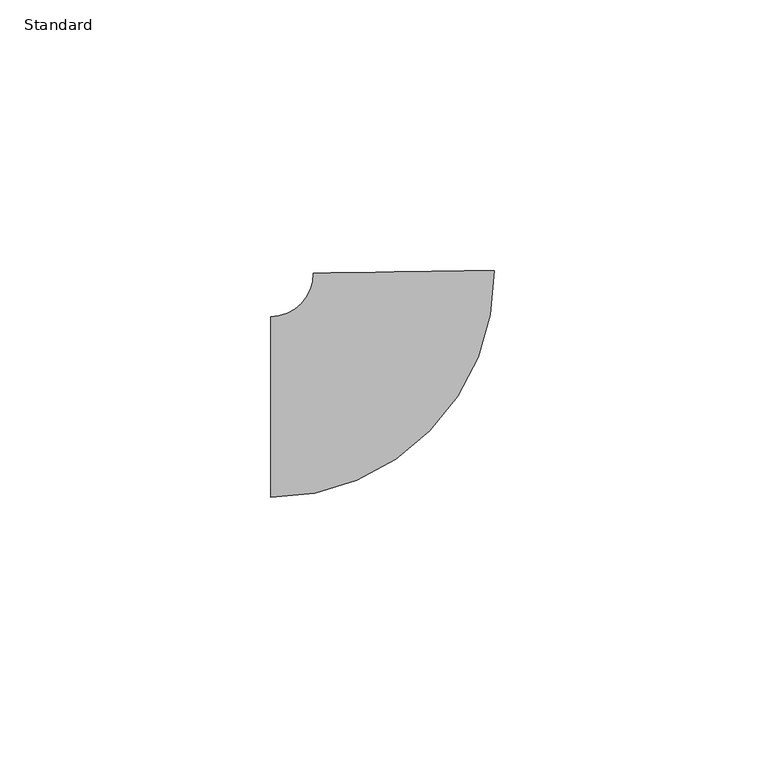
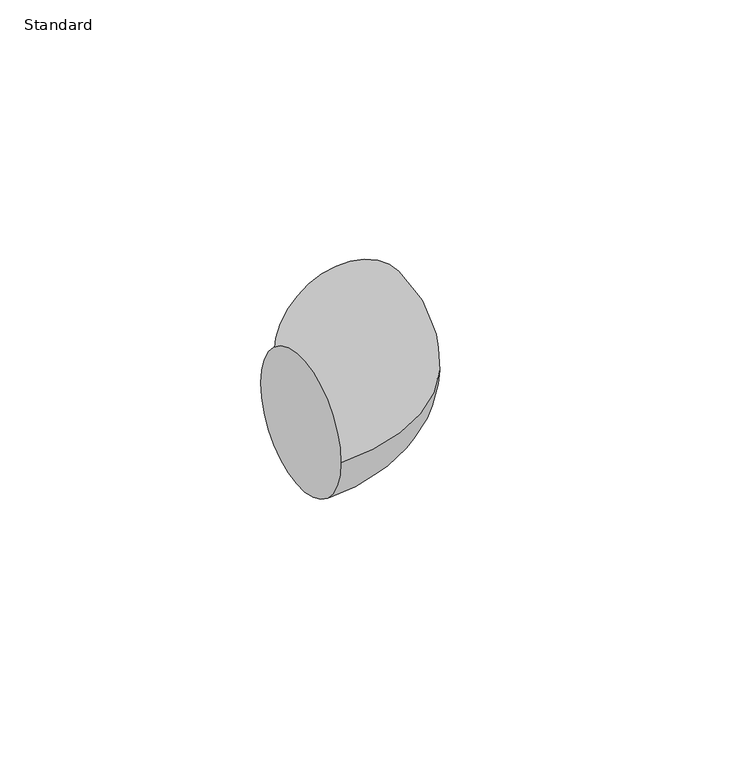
"""IFC4 building model written with IfcOpenShell, lengths in millimetres: pipe fitting geometry, Coude - Générique1 : Standard."""

from ifc_helpers import new_model, si_unit, point, frame, origin, place, context, project, spatial, circle_curve, ellipse_curve, trimmed, source, transform, mapped, element, save
from ifc_brep_helpers import plane_surface, revolved_surface, advanced_brep


def standard_af0e4d0f(model_context):
    return source(origin(), model_context, "Body", "AdvancedBrep", [
        advanced_brep(
        [(-25.0, -16.7, 0.0), (-25.0, 16.7, 0.0), (16.33103, 25.2425724, 0.0), (-17.0653676, 24.7520348, 0.0)],
        [
            (0, 1, circle_curve(frame((-25.0, 0.0, 0.0), z_axis=(-1.0, 0.0, 0.0), x_axis=(0.0, 1.0, 0.0)), 16.7)),
            (1, 0, circle_curve(frame((-25.0, 0.0, 0.0), z_axis=(-1.0, 0.0, 0.0), x_axis=(0.0, 1.0, 0.0)), 16.7)),
            (2, 3, circle_curve(frame((-0.3671688, 24.9973036, 0.0), z_axis=(-0.014686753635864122, 0.9998921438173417, 0.0), x_axis=(-0.9998921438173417, -0.014686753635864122, 0.0)), 16.7)),
            (3, 2, circle_curve(frame((-0.3671688, 24.9973036, 0.0), z_axis=(-0.014686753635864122, 0.9998921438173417, 0.0), x_axis=(-0.9998921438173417, -0.014686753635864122, 0.0)), 16.7)),
            (3, 1, circle_curve(frame((-25.0, 24.6354882, 0.0), z_axis=(0.0, 0.0, -1.0), x_axis=(0.0, -1.0, 0.0)), 7.9354882)),
            (0, 2, circle_curve(frame((-25.0, 24.6354882, 0.0), z_axis=(0.0, 0.0, 1.0), x_axis=(0.0, -1.0, 0.0)), 41.3354882)),
        ],
        [
            plane_surface(frame((-25.0, 0.0, 0.0), z_axis=(-1.0, 0.0, 0.0), x_axis=(0.0, 0.0, 1.0))),
            plane_surface(frame((-0.3671688, 24.9973036, 0.0), z_axis=(-0.014686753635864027, 0.9998921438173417, 0.0), x_axis=(0.0, 0.0, 1.0))),
            revolved_surface(trimmed(ellipse_curve(frame((-25.0, 0.0, 0.0), z_axis=(-1.0, 0.0, 0.0), x_axis=(0.0, 1.0, 0.0)), 16.7, 16.7), [point((-25.0, -16.7, 0.0))], [point((-25.0, 16.7, 0.0))], True, "CARTESIAN"), (-25.0, 24.6354882, 0.0), (0.0, 0.0, 1.0)),
            revolved_surface(trimmed(ellipse_curve(frame((-25.0, 0.0, 0.0), z_axis=(-1.0, 0.0, 0.0), x_axis=(0.0, 1.0, 0.0)), 16.7, 16.7), [point((-25.0, 16.7, 0.0))], [point((-25.0, -16.7, 0.0))], True, "CARTESIAN"), (-25.0, 24.6354882, 0.0), (0.0, 0.0, 1.0)),
        ],
        [
            (0, [[1, 2]]),
            (1, [[3, 4]]),
            (2, [[5, -1, 6, -4]]),
            (3, [[-6, -2, -5, -3]]),
        ],
    ),
    ])


if __name__ == "__main__":
    model = new_model("IFC4")
    model_context = context("Model", 3, world=origin())
    ifc_project = project(units=[si_unit("LENGTHUNIT", "METRE", prefix="MILLI")], contexts=[model_context])
    site = spatial("IfcSite", under=ifc_project)
    building = spatial("IfcBuilding", under=site)
    placement = place(None, origin())
    standard_shape = standard_af0e4d0f(model_context)
    element("IfcPipeFitting", 1, ObjectType="Coude - Générique1 : Standard", at=placement, inside=building, context=model_context, shape_type="MappedRepresentation", body=[
        mapped(standard_shape, transform((0.0, 0.0, 0.0), x_axis=(1.0, 0.0, 0.0), y_axis=(0.0, 1.0, 0.0), z_axis=(0.0, 0.0, 1.0))),
    ])
    save(model, "model.ifc")
